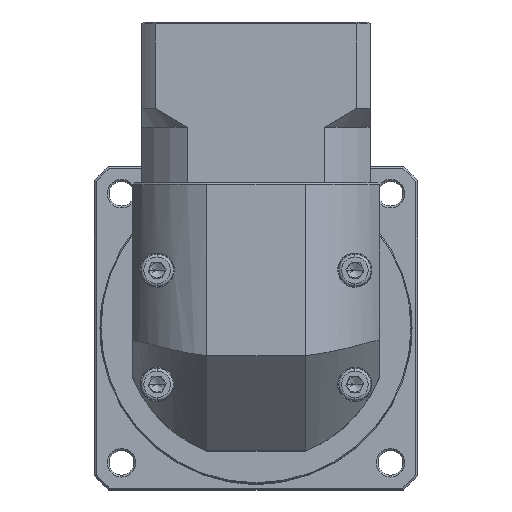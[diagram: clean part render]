
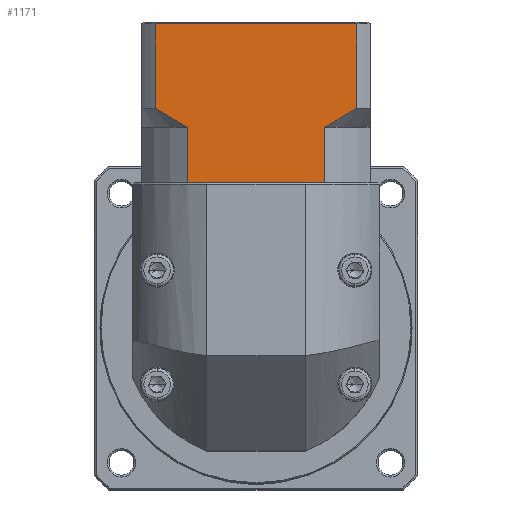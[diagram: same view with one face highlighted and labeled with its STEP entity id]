
A CAD part, top view. The second image highlights one B-rep face of the part: STEP entity #1171.
In plain terms, the highlighted planar face has unit normal (0, 0, 1).
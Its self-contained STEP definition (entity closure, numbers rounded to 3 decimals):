
#410 = CARTESIAN_POINT ( 'NONE',  ( -106.136, 78.671, 66.872 ) ) ;
#1048 = LINE ( 'NONE', #7983, #127136 ) ;
#1171 = ADVANCED_FACE ( 'NONE', ( #128759 ), #87732, .F. ) ;
#7665 = AXIS2_PLACEMENT_3D ( 'NONE', #128478, #54874, #65388 ) ;
#7983 = CARTESIAN_POINT ( 'NONE',  ( -118.109, 64.171, 66.872 ) ) ;
#8096 = VECTOR ( 'NONE', #82222, 1000. ) ;
#9288 = CARTESIAN_POINT ( 'NONE',  ( -107.588, 79.419, 66.872 ) ) ;
#9475 = VERTEX_POINT ( 'NONE', #114668 ) ;
#9738 = CARTESIAN_POINT ( 'NONE',  ( -111.828, 81.898, 66.872 ) ) ;
#10094 = LINE ( 'NONE', #122558, #93622 ) ;
#10813 = CARTESIAN_POINT ( 'NONE',  ( -68.624, 79.421, 66.872 ) ) ;
#10816 = VERTEX_POINT ( 'NONE', #56544 ) ;
#13523 = CARTESIAN_POINT ( 'NONE',  ( -114.566, 105.871, 66.872 ) ) ;
#14017 = DIRECTION ( 'NONE',  ( -1., 0., 0. ) ) ;
#14230 = VERTEX_POINT ( 'NONE', #13523 ) ;
#14269 = ORIENTED_EDGE ( 'NONE', *, *, #129171, .F. ) ;
#14661 = VECTOR ( 'NONE', #61066, 1000. ) ;
#18097 = EDGE_CURVE ( 'NONE', #128150, #43338, #1048, .T. ) ;
#20411 = DIRECTION ( 'NONE',  ( 0., -1., 0. ) ) ;
#25212 = ORIENTED_EDGE ( 'NONE', *, *, #64106, .F. ) ;
#26777 = DIRECTION ( 'NONE',  ( 1., 0., 0. ) ) ;
#29131 = CARTESIAN_POINT ( 'NONE',  ( -106.136, 78.671, 66.872 ) ) ;
#32331 = CARTESIAN_POINT ( 'NONE',  ( -70.081, 78.671, 66.872 ) ) ;
#34700 = CARTESIAN_POINT ( 'NONE',  ( -61.651, 105.871, 66.872 ) ) ;
#35713 = ORIENTED_EDGE ( 'NONE', *, *, #44674, .T. ) ;
#36201 = VERTEX_POINT ( 'NONE', #120706 ) ;
#36413 = EDGE_CURVE ( 'NONE', #123651, #80500, #130073, .T. ) ;
#40023 = ORIENTED_EDGE ( 'NONE', *, *, #36413, .T. ) ;
#41497 = CARTESIAN_POINT ( 'NONE',  ( -105.145, 64.171, 66.872 ) ) ;
#43338 = VERTEX_POINT ( 'NONE', #41497 ) ;
#44674 = EDGE_CURVE ( 'NONE', #127577, #14230, #133172, .T. ) ;
#47055 = ORIENTED_EDGE ( 'NONE', *, *, #73641, .F. ) ;
#52030 = CARTESIAN_POINT ( 'NONE',  ( -63.014, 82.77, 66.872 ) ) ;
#54874 = DIRECTION ( 'NONE',  ( 0., 0., -1. ) ) ;
#54931 = CARTESIAN_POINT ( 'NONE',  ( -114.566, 78.671, 66.872 ) ) ;
#56544 = CARTESIAN_POINT ( 'NONE',  ( -114.566, 83.671, 66.872 ) ) ;
#59019 = EDGE_LOOP ( 'NONE', ( #14269, #35713, #47055, #87221, #25212, #102227, #76465, #120200, #71155, #40023 ) ) ;
#61039 = CARTESIAN_POINT ( 'NONE',  ( -114.566, 83.671, 66.872 ) ) ;
#61066 = DIRECTION ( 'NONE',  ( 1., 0., 0. ) ) ;
#64106 = EDGE_CURVE ( 'NONE', #128150, #118215, #85614, .T. ) ;
#64813 = VECTOR ( 'NONE', #128099, 1000. ) ;
#65388 = DIRECTION ( 'NONE',  ( 0., 1., 0. ) ) ;
#69778 = CARTESIAN_POINT ( 'NONE',  ( -106.136, 64.171, 66.872 ) ) ;
#71155 = ORIENTED_EDGE ( 'NONE', *, *, #75464, .F. ) ;
#71547 = CARTESIAN_POINT ( 'NONE',  ( -113.206, 82.771, 66.872 ) ) ;
#72621 = CARTESIAN_POINT ( 'NONE',  ( -67.199, 80.222, 66.872 ) ) ;
#73641 = EDGE_CURVE ( 'NONE', #10816, #14230, #118857, .T. ) ;
#75464 = EDGE_CURVE ( 'NONE', #123651, #9475, #80163, .T. ) ;
#76465 = ORIENTED_EDGE ( 'NONE', *, *, #119229, .T. ) ;
#80163 = LINE ( 'NONE', #134833, #94859 ) ;
#80500 = VERTEX_POINT ( 'NONE', #98230 ) ;
#82222 = DIRECTION ( 'NONE',  ( 1., 0., 0. ) ) ;
#82978 = CARTESIAN_POINT ( 'NONE',  ( -106.136, 78.671, 66.872 ) ) ;
#85614 = LINE ( 'NONE', #410, #106859 ) ;
#87221 = ORIENTED_EDGE ( 'NONE', *, *, #126819, .T. ) ;
#87732 = PLANE ( 'NONE',  #7665 ) ;
#92293 = CARTESIAN_POINT ( 'NONE',  ( -118.109, 64.171, 66.872 ) ) ;
#92347 = DIRECTION ( 'NONE',  ( 0., -1., 0. ) ) ;
#93622 = VECTOR ( 'NONE', #92347, 1000. ) ;
#94859 = VECTOR ( 'NONE', #20411, 1000. ) ;
#98230 = CARTESIAN_POINT ( 'NONE',  ( -61.651, 83.671, 66.872 ) ) ;
#98783 = VECTOR ( 'NONE', #14017, 1000. ) ;
#102227 = ORIENTED_EDGE ( 'NONE', *, *, #18097, .T. ) ;
#103136 = LINE ( 'NONE', #113267, #14661 ) ;
#106489 = LINE ( 'NONE', #92293, #8096 ) ;
#106859 = VECTOR ( 'NONE', #126714, 1000. ) ;
#108960 = EDGE_CURVE ( 'NONE', #36201, #9475, #103136, .T. ) ;
#113267 = CARTESIAN_POINT ( 'NONE',  ( -118.109, 64.171, 66.872 ) ) ;
#114668 = CARTESIAN_POINT ( 'NONE',  ( -70.081, 64.171, 66.872 ) ) ;
#115024 = CARTESIAN_POINT ( 'NONE',  ( -109.02, 80.222, 66.872 ) ) ;
#117931 = CARTESIAN_POINT ( 'NONE',  ( -118.109, 105.871, 66.872 ) ) ;
#118215 = VERTEX_POINT ( 'NONE', #29131 ) ;
#118440 = CARTESIAN_POINT ( 'NONE',  ( -70.081, 78.671, 66.872 ) ) ;
#118857 = LINE ( 'NONE', #54931, #64813 ) ;
#119229 = EDGE_CURVE ( 'NONE', #43338, #36201, #106489, .T. ) ;
#120200 = ORIENTED_EDGE ( 'NONE', *, *, #108960, .T. ) ;
#120706 = CARTESIAN_POINT ( 'NONE',  ( -71.072, 64.171, 66.872 ) ) ;
#122558 = CARTESIAN_POINT ( 'NONE',  ( -61.651, 78.671, 66.872 ) ) ;
#123651 = VERTEX_POINT ( 'NONE', #118440 ) ;
#124369 = CARTESIAN_POINT ( 'NONE',  ( -61.651, 83.671, 66.872 ) ) ;
#126714 = DIRECTION ( 'NONE',  ( 0., 1., 0. ) ) ;
#126819 = EDGE_CURVE ( 'NONE', #10816, #118215, #135720, .T. ) ;
#127136 = VECTOR ( 'NONE', #26777, 1000. ) ;
#127577 = VERTEX_POINT ( 'NONE', #34700 ) ;
#128099 = DIRECTION ( 'NONE',  ( 0., 1., 0. ) ) ;
#128150 = VERTEX_POINT ( 'NONE', #69778 ) ;
#128478 = CARTESIAN_POINT ( 'NONE',  ( -118.109, 106.371, 66.872 ) ) ;
#128759 = FACE_OUTER_BOUND ( 'NONE', #59019, .T. ) ;
#129171 = EDGE_CURVE ( 'NONE', #127577, #80500, #10094, .T. ) ;
#130073 = B_SPLINE_CURVE_WITH_KNOTS ( 'NONE', 3,
 ( #32331, #10813, #72621, #135718, #52030, #124369 ),
 .UNSPECIFIED., .F., .F.,
 ( 4, 2, 4 ),
 ( 0.1, 0.104, 0.109 ),
 .UNSPECIFIED. ) ;
#133172 = LINE ( 'NONE', #117931, #98783 ) ;
#134833 = CARTESIAN_POINT ( 'NONE',  ( -70.081, 78.671, 66.872 ) ) ;
#135718 = CARTESIAN_POINT ( 'NONE',  ( -64.394, 81.896, 66.872 ) ) ;
#135720 = B_SPLINE_CURVE_WITH_KNOTS ( 'NONE', 3,
 ( #61039, #71547, #9738, #115024, #9288, #82978 ),
 .UNSPECIFIED., .F., .F.,
 ( 4, 2, 4 ),
 ( 0.052, 0.057, 0.062 ),
 .UNSPECIFIED. ) ;
